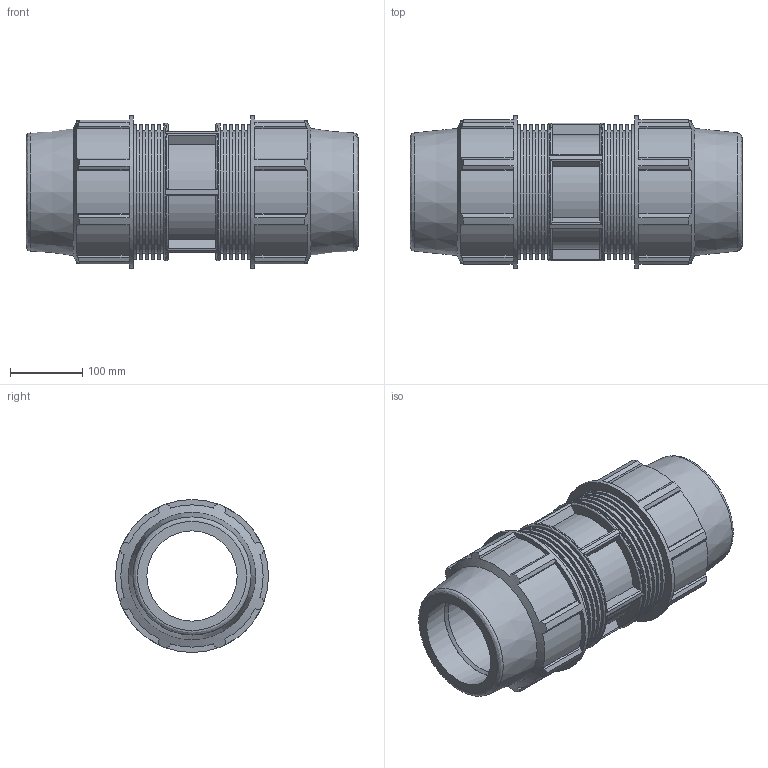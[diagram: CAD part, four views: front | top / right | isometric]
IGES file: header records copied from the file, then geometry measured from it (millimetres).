
Global section: file name: 0761061250A.ipt; native system: Autodesk Inventor 2015; preprocessor: unknown; author: KIM; date: 20170608.042734; units: millimetre
Bounding box: 460 x 212 x 212 mm (x, y, z)
Volume: 6304321.7 mm3; surface area: 628618.7 mm2
Topology: 1 solids, 1 shells, 212 faces, 551 edges, 370 vertices
Faces by surface type: plane 130, cylinder 57, revolution 21, cone 4
Full cylindrical faces by diameter (mm): 169.6 x10, 186.984 x10, 190.8 x1, 212 x2
